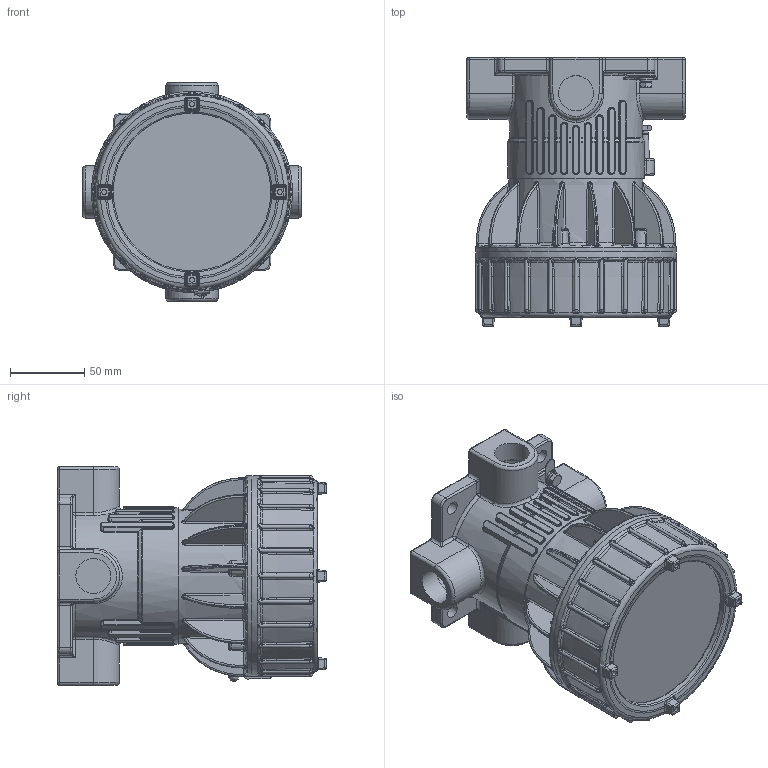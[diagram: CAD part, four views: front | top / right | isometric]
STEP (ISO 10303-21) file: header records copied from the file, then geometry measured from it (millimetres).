
FILE_DESCRIPTION (( 'STEP AP203' ), '1' );
FILE_NAME ('ﾑﾃﾓ05-2480ﾑ-220AC_ﾏ.STEP', '2021-05-14T07:50:05', ( '' ), ( '' ), 'SwSTEP 2.0', 'SolidWorks 2018', '' );
FILE_SCHEMA (( 'CONFIG_CONTROL_DESIGN' ));
Products named in the file (1): ﾑﾃﾓ05-2480ﾑ-220AC_ﾏ
Bounding box: 147 x 180.5 x 147 mm (x, y, z)
Volume: 1566380.8 mm3; surface area: 147253.8 mm2
Topology: 1 solids, 1 shells, 2138 faces, 5081 edges, 2893 vertices
Faces by surface type: bspline 839, cylinder 643, plane 305, torus 211, cone 73, sphere 67
Full cylindrical faces by diameter (mm): 3.3 x5, 4 x1, 4.2 x3, 4.567 x2, 5 x2, 5.1 x1, 5.2 x1, 6.7 x2, 6.8 x2, 7 x1, 9 x5, 9.8 x1, 23.5 x4, 24 x4, 89.5 x1, 92 x1, 106 x1, 135 x1
Entity records: 147558 total; most frequent: CARTESIAN_POINT 108452, ORIENTED_EDGE 9854, DIRECTION 5339, EDGE_CURVE 4927, B_SPLINE_CURVE_WITH_KNOTS 2967, VERTEX_POINT 2865, AXIS2_PLACEMENT_3D 2321, EDGE_LOOP 2230
